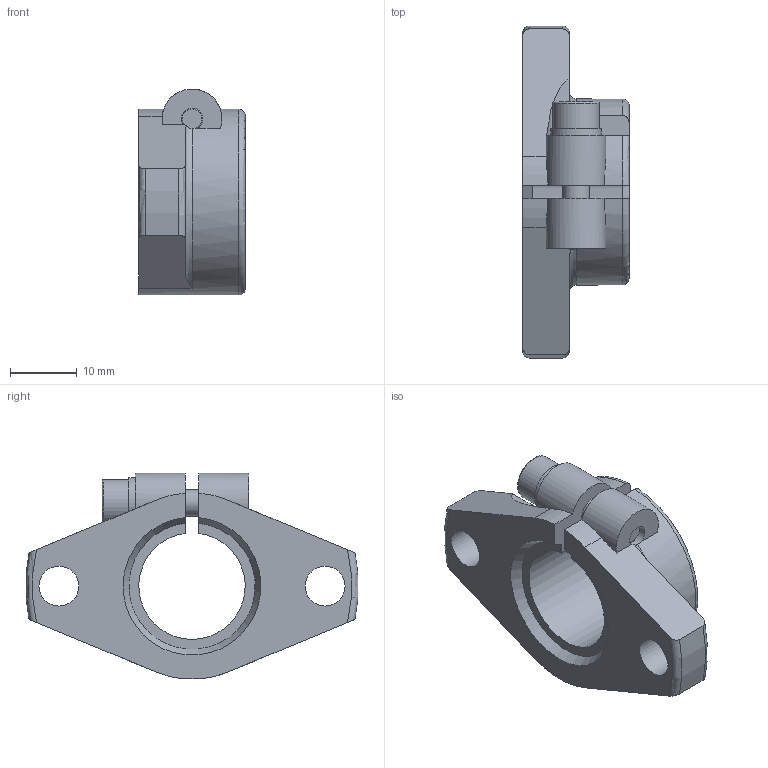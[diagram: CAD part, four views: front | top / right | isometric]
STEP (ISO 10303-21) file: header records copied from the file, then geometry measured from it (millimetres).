
FILE_DESCRIPTION((''),'2;1');
FILE_NAME('D:\製品 (図面)\カタログ用3D\シャフトブロック関連\STEP形式\SF\SF16.stp','2010-06-01T16:24:56',('Tsuchiya'),(''),'Autodesk Inventor 10','Autodesk Inventor 10','');
FILE_SCHEMA(('AUTOMOTIVE_DESIGN { 1 0 10303 214 1 1 1 1 }'));
Length unit declared in the file: millimetre
Products named in the file (1): SF16
Bounding box: 16 x 49.89 x 30.95 mm (x, y, z)
Volume: 8876.3 mm3; surface area: 4711.9 mm2
Topology: 1 solids, 1 shells, 56 faces, 152 edges, 101 vertices
Faces by surface type: plane 25, cylinder 15, torus 7, bspline 5, cone 4
Full cylindrical faces by diameter (mm): 4 x1, 6 x2, 7 x1, 7.6 x1
Entity records: 2062 total; most frequent: CARTESIAN_POINT 748, ORIENTED_EDGE 270, DIRECTION 255, EDGE_CURVE 135, AXIS2_PLACEMENT_3D 102, VERTEX_POINT 94, EDGE_LOOP 75, FACE_OUTER_BOUND 56
